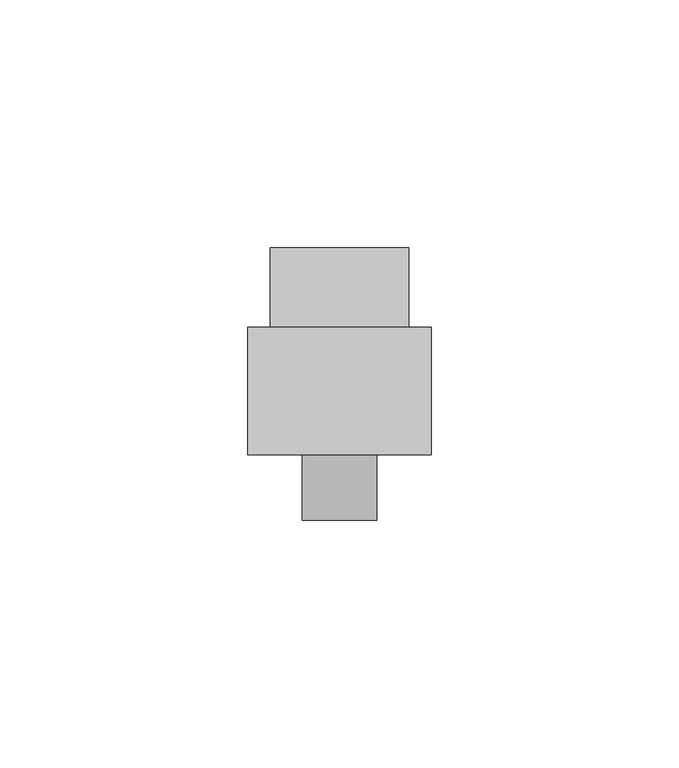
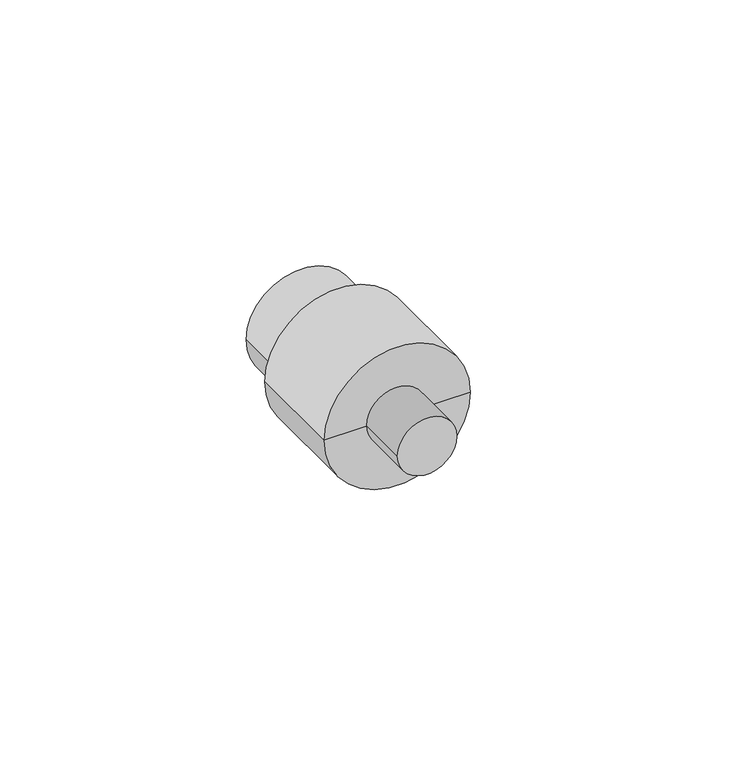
"""IFC4 building model written with IfcOpenShell, lengths in millimetres: pipe fitting geometry, NIRON RED termofusion roscado enlace rosca macho : Estándar."""

from ifc_helpers import new_model, si_unit, point, frame, origin, origin_2d, place, context, project, spatial, circle_curve, trimmed, segment, composite_curve, outline, extrude, source, transform, mapped, element, save
from ifc_brep_helpers import plane_surface, cylinder_surface, advanced_brep


def pipe_fitting_d19c0441(model_context):
    return source(origin(), model_context, "Body", "SolidModel", [
        extrude(outline(composite_curve([segment(trimmed(circle_curve(origin_2d(), 7.5), [point((0.0, -7.5))], [point((0.0, 7.5))], False, "CARTESIAN"), True, "CONTINUOUS"), segment(trimmed(circle_curve(origin_2d(), 7.5), [point((0.0, 7.5))], [point((0.0, -7.5))], False, "CARTESIAN"), True, "CONTINUOUS")], self_intersect=False)), frame((0.0, -5.0, 0.0), z_axis=(0.0, 1.0, 0.0), x_axis=(0.0, 0.0, 1.0)), (0.0, 0.0, 1.0), 30.0),
        advanced_brep(
        [(14.0, 50.0, 0.0), (-14.0, 50.0, 0.0), (0.0, 50.0, 0.0), (18.5, 8.2, 0.0), (-18.5, 8.2, 0.0), (-18.5, 34.0, 0.0), (18.5, 34.0, 0.0), (0.0, 8.2, 0.0), (14.0, 34.0, 0.0), (-14.0, 34.0, 0.0)],
        [
            (0, 1, circle_curve(frame((0.0, 50.0, 0.0), z_axis=(0.0, 1.0, 0.0), x_axis=(-1.0, 0.0, 0.0)), 14.0)),
            (1, 2),
            (2, 0),
            (1, 0, circle_curve(frame((0.0, 50.0, 0.0), z_axis=(0.0, 1.0, 0.0), x_axis=(-1.0, 0.0, 0.0)), 14.0)),
            (3, 4, circle_curve(frame((0.0, 8.2, 0.0), z_axis=(0.0, 1.0, 0.0), x_axis=(-1.0, 0.0, 0.0)), 18.5)),
            (4, 5),
            (5, 6, circle_curve(frame((0.0, 34.0, 0.0), z_axis=(0.0, -1.0, 0.0), x_axis=(-1.0, 0.0, 0.0)), 18.5)),
            (6, 3),
            (4, 3, circle_curve(frame((0.0, 8.2, 0.0), z_axis=(0.0, 1.0, 0.0), x_axis=(-1.0, 0.0, 0.0)), 18.5)),
            (6, 5, circle_curve(frame((0.0, 34.0, 0.0), z_axis=(0.0, -1.0, 0.0), x_axis=(-1.0, 0.0, 0.0)), 18.5)),
            (7, 4),
            (3, 7),
            (8, 9, circle_curve(frame((0.0, 34.0, 0.0), z_axis=(0.0, 1.0, 0.0), x_axis=(-1.0, 0.0, 0.0)), 14.0)),
            (9, 1),
            (0, 8),
            (9, 8, circle_curve(frame((0.0, 34.0, 0.0), z_axis=(0.0, 1.0, 0.0), x_axis=(-1.0, 0.0, 0.0)), 14.0)),
            (5, 9),
            (8, 6),
        ],
        [
            plane_surface(frame((0.0, 50.0, 0.0), z_axis=(0.0, 1.0, 0.0), x_axis=(-1.0, 0.0, 0.0))),
            cylinder_surface(frame((0.0, 60.0, 0.0), z_axis=(0.0, -1.0, 0.0), x_axis=(-1.0, 0.0, 0.0)), 18.5),
            plane_surface(frame((0.0, 8.2, 0.0), z_axis=(0.0, -1.0, 0.0), x_axis=(-1.0, 0.0, 0.0))),
            cylinder_surface(frame((0.0, 60.0, 0.0), z_axis=(0.0, -1.0, 0.0), x_axis=(-1.0, 0.0, 0.0)), 14.0),
            plane_surface(frame((0.0, 34.0, 0.0), z_axis=(0.0, 1.0, 0.0), x_axis=(-1.0, 0.0, 0.0))),
        ],
        [
            (0, [[1, 2, 3]]),
            (0, [[4, -3, -2]]),
            (1, [[5, 6, 7, 8]]),
            (1, [[9, -8, 10, -6]]),
            (2, [[11, -5, 12]]),
            (2, [[-12, -9, -11]]),
            (3, [[13, 14, -1, 15]]),
            (3, [[16, -15, -4, -14]]),
            (4, [[-7, 17, -13, 18]]),
            (4, [[-10, -18, -16, -17]]),
        ],
    ),
    ])


if __name__ == "__main__":
    model = new_model("IFC4")
    model_context = context("Model", 3, world=origin())
    ifc_project = project(units=[si_unit("LENGTHUNIT", "METRE", prefix="MILLI")], contexts=[model_context])
    site = spatial("IfcSite", under=ifc_project)
    building = spatial("IfcBuilding", under=site)
    placement = place(None, origin())
    pipe_fitting_shape = pipe_fitting_d19c0441(model_context)
    element("IfcPipeFitting", 1, ObjectType="NIRON RED termofusion roscado enlace rosca macho : Estándar", at=placement, inside=building, context=model_context, shape_type="MappedRepresentation", body=[
        mapped(pipe_fitting_shape, transform((0.0, 0.0, 0.0), x_axis=(1.0, 0.0, 0.0), y_axis=(0.0, 1.0, 0.0), z_axis=(0.0, 0.0, 1.0))),
    ])
    save(model, "model.ifc")
